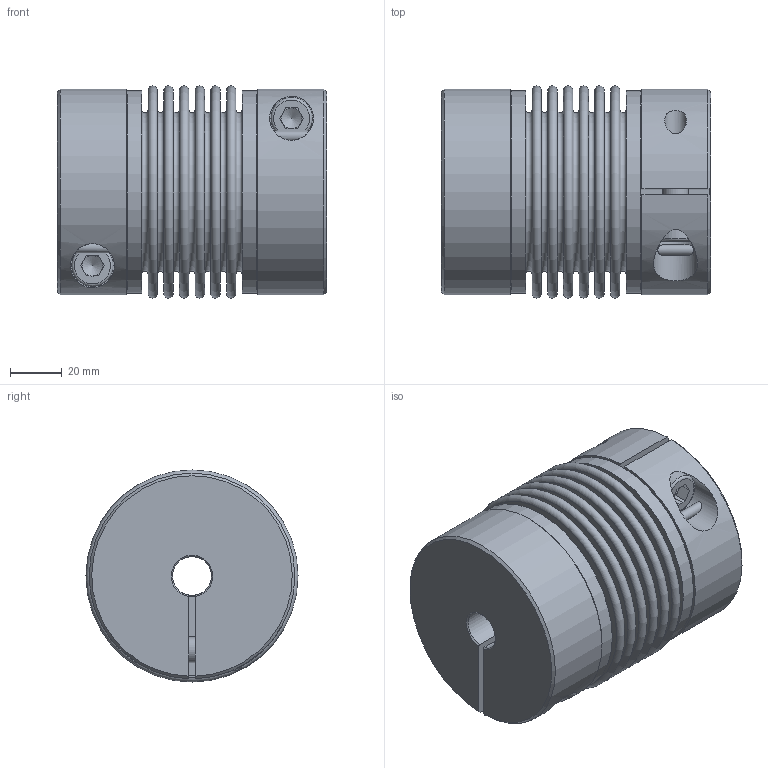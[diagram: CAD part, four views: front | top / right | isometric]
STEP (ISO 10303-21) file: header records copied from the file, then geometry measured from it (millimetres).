
FILE_DESCRIPTION(/* description */ ('Unknown'),/* implementation_level */ '2;1');
FILE_NAME(/* name */ 'KM 170 - 104',/* time_stamp */ '2020-05-07T08:19:57+03:00',/* author */ ('Unknown'),/* organization */ ('Unknown'),/* preprocessor_version */ 'ST-DEVELOPER v16.7',/* originating_system */ 'DEX',/* authorisation */ $);
FILE_SCHEMA (('AUTOMOTIVE_DESIGN {1 0 10303 214 3 1 1}'));
Length unit declared in the file: millimetre
Products named in the file (1): KM 170 - 104
Bounding box: 104 x 82 x 82 mm (x, y, z)
Volume: 316079.2 mm3; surface area: 113328.8 mm2
Topology: 1 solids, 1 shells, 134 faces, 281 edges, 183 vertices
Faces by surface type: plane 74, torus 28, cylinder 24, cone 8
Full cylindrical faces by diameter (mm): 8.5 x2, 10 x2, 10.5 x2, 16 x2, 17 x2, 78.5 x2
Entity records: 3528 total; most frequent: CARTESIAN_POINT 769, DIRECTION 608, ORIENTED_EDGE 444, AXIS2_PLACEMENT_3D 257, EDGE_CURVE 222, FACE_BOUND 220, EDGE_LOOP 218, VERTEX_POINT 170
